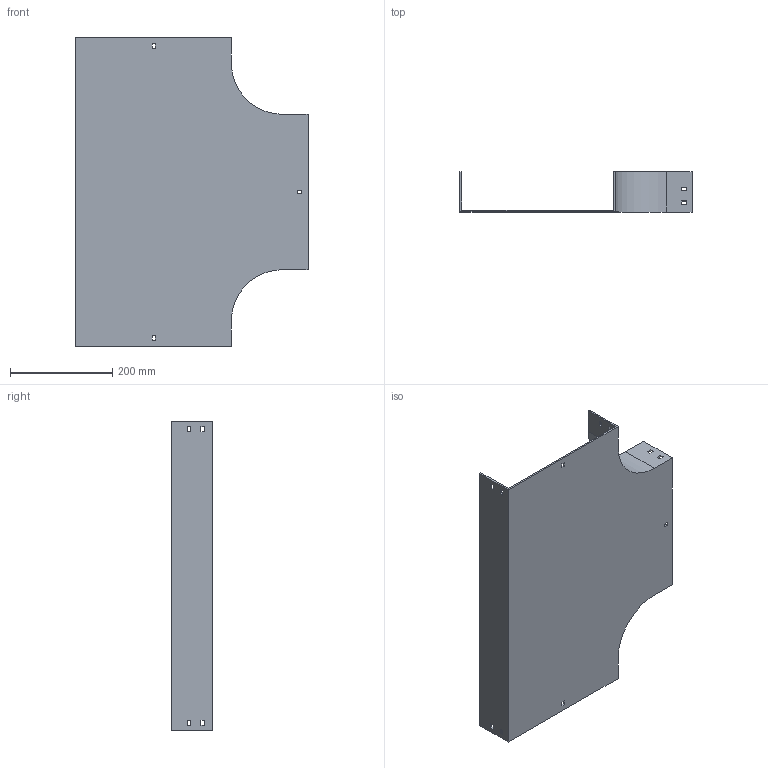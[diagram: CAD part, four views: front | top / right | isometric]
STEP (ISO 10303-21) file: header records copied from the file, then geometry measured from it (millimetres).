
FILE_DESCRIPTION (( 'STEP AP214' ), '1' );
FILE_NAME ('15B1C300.step', '2025-02-21T09:55:20', ( '' ), ( '' ), 'SwSTEP 2.0', 'SolidWorks 2023', '' );
FILE_SCHEMA (( 'AUTOMOTIVE_DESIGN' ));
Length unit declared in the file: millimetre
Products named in the file (1): 15B1C300
Bounding box: 454 x 79 x 604 mm (x, y, z)
Volume: 1110650.3 mm3; surface area: 645101.8 mm2
Topology: 1 solids, 1 shells, 82 faces, 240 edges, 160 vertices
Faces by surface type: plane 78, cylinder 4
Entity records: 2755 total; most frequent: CARTESIAN_POINT 483, ORIENTED_EDGE 480, DIRECTION 414, EDGE_CURVE 240, LINE 232, VECTOR 232, VERTEX_POINT 160, EDGE_LOOP 112
